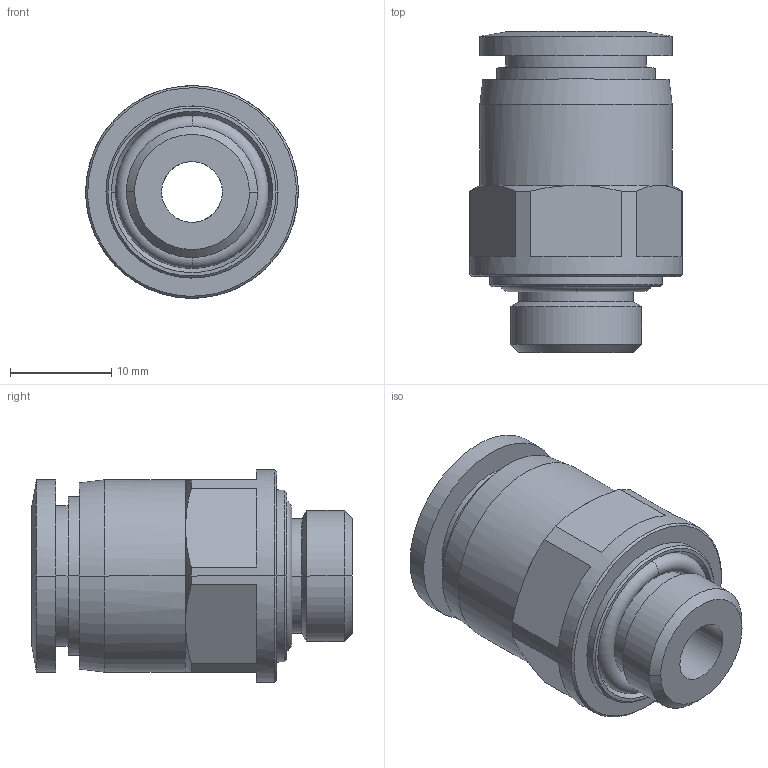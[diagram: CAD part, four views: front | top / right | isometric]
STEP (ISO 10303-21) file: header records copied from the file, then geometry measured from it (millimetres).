
FILE_DESCRIPTION (( 'STEP AP203' ), '1' );
FILE_NAME ('FH12-02.STEP', '2020-05-06T14:36:18', ( '' ), ( '' ), 'SwSTEP 2.0', 'SolidWorks 2019', '' );
FILE_SCHEMA (( 'CONFIG_CONTROL_DESIGN' ));
Length unit declared in the file: millimetre
Products named in the file (1): FH12-02
Bounding box: 21 x 31.7 x 20.99 mm (x, y, z)
Surface area: 3985.6 mm2 (no closed solid volume)
Topology: 0 solids, 4 shells, 71 faces, 165 edges, 104 vertices
Faces by surface type: cylinder 22, plane 22, cone 21, torus 6
Entity records: 3467 total; most frequent: CARTESIAN_POINT 2023, ORIENTED_EDGE 314, DIRECTION 193, EDGE_CURVE 165, B_SPLINE_CURVE_WITH_KNOTS 122, VERTEX_POINT 104, EDGE_LOOP 81, AXIS2_PLACEMENT_3D 78
